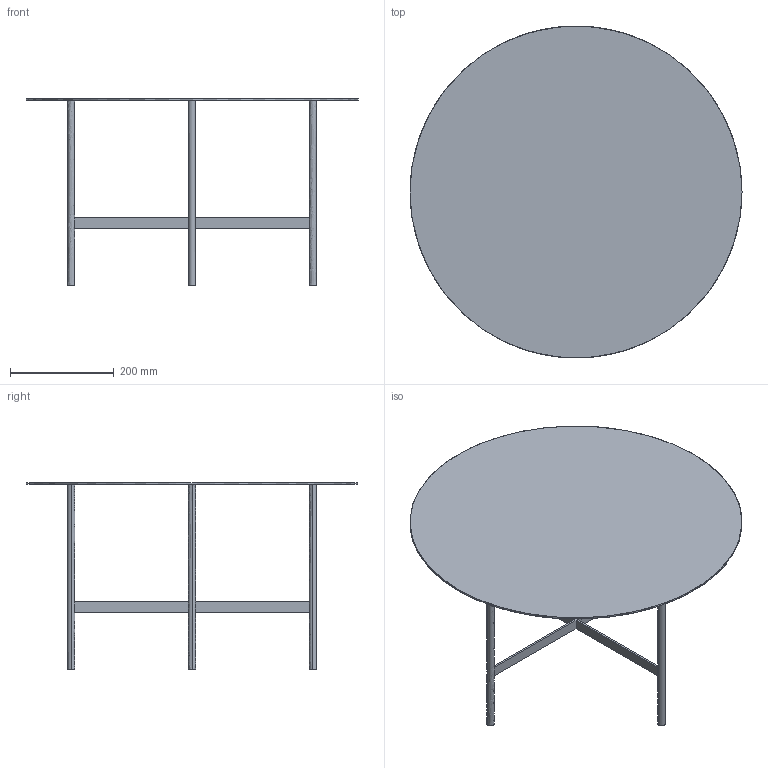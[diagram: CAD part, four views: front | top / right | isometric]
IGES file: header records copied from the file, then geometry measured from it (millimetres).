
Start section: Comment
Global section: file name: Beta-Large.igs; native system:  By UGS Corp.; preprocessor: XPlus GENERIC/IGES 3.0; author: Author; organization: Title; date: 20190912.094949; units: inch
Bounding box: 640 x 639.28 x 360 mm (x, y, z)
Surface area: 756656.8 mm2 (no closed solid volume)
Topology: 0 solids, 0 shells, 26 faces, 144 edges, 144 vertices
Faces by surface type: bspline 26
